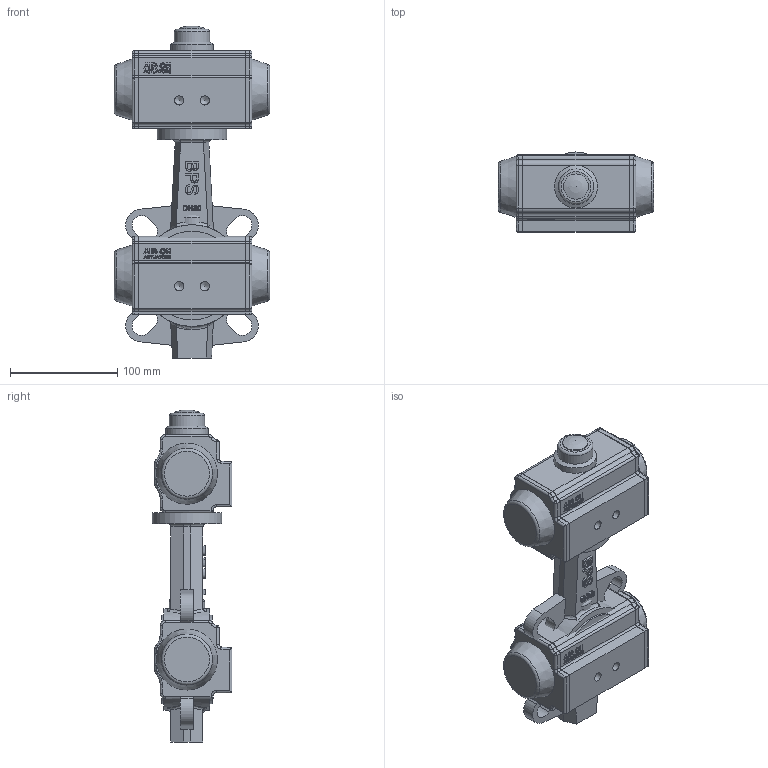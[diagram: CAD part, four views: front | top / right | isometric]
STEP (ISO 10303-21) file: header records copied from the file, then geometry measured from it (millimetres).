
FILE_DESCRIPTION( ( 'Unknown' ), '1' );
FILE_NAME( 'R:/ECCUA/ROOTSI BPS 3D vidinad/Poordklapid Wafer type/Butterfly valve(wafer) with pneumatic actuator BPS/STEP formaat/BPS 2303050P butterfly valve DN50.stp', 'Unknown', ( 'Unknown' ), ( 'Unknown' ), 'PSStep 10.1', 'Unknown', ' ' );
FILE_SCHEMA( ( 'AUTOMOTIVE_DESIGN { 1 0 10303 214 1 1 1 1 }' ) );
Length unit declared in the file: millimetre
Products named in the file (5): Assem1; Butterfly valve wafer type DN50 BPS var2; BPS 8300050DA-SR pneumatic actuator
Bounding box: 145 x 74.5 x 310 mm (x, y, z)
Volume: 2052006.5 mm3; surface area: 271415.9 mm2
Topology: 8 solids, 8 shells, 956 faces, 2444 edges, 1580 vertices
Faces by surface type: plane 310, extrusion 286, cylinder 226, torus 62, bspline 36, cone 30, sphere 6
Full cylindrical faces by diameter (mm): 4.134 x8, 4.917 x8, 7 x8, 8.566 x4, 23.5 x2, 33 x2, 40 x2, 50 x2, 65 x2, 83 x4, 95 x2
Entity records: 22369 total; most frequent: CARTESIAN_POINT 7532, ORIENTED_EDGE 2292, DIRECTION 1954, EDGE_CURVE 1146, VERTEX_POINT 772, VECTOR 742, AXIS2_PLACEMENT_3D 606, LINE 599
